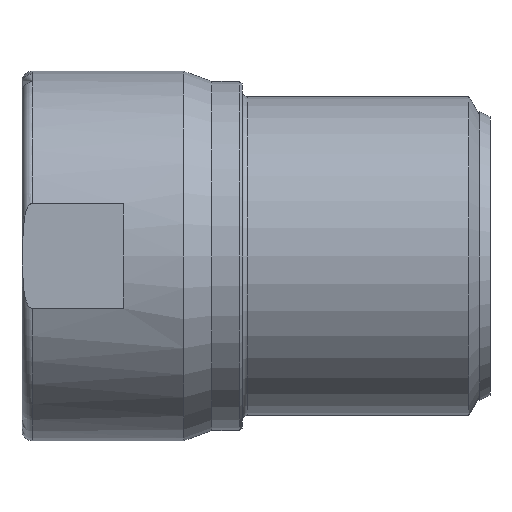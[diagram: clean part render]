
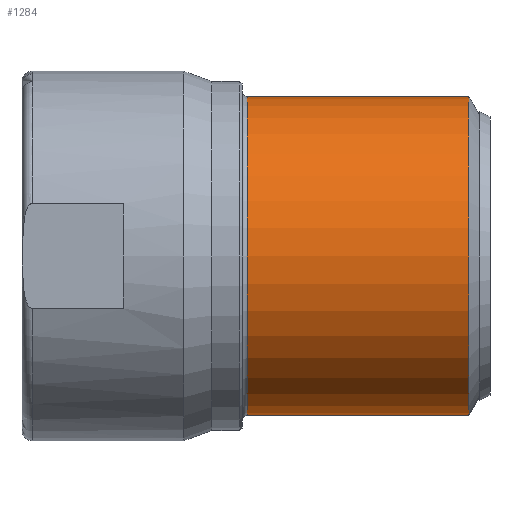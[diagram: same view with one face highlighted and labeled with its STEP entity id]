
A CAD part, front view. The second image highlights one B-rep face of the part: STEP entity #1284.
In plain terms, the highlighted cylindrical face has radius 31.5 mm (diameter 63 mm), a partial arc.
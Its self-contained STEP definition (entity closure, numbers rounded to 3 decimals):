
#3 = EDGE_CURVE ( 'NONE', #1450, #1447, #278, .T. ) ;
#18 = EDGE_CURVE ( 'NONE', #1449, #1448, #359, .T. ) ;
#19 = EDGE_CURVE ( 'NONE', #1450, #1449, #1170, .T. ) ;
#27 = EDGE_CURVE ( 'NONE', #1447, #1448, #1163, .T. ) ;
#118 = AXIS2_PLACEMENT_3D ( 'NONE', #984, #980, #987 ) ;
#218 = ORIENTED_EDGE ( 'NONE', *, *, #3, .F. ) ;
#219 = ORIENTED_EDGE ( 'NONE', *, *, #19, .T. ) ;
#220 = ORIENTED_EDGE ( 'NONE', *, *, #18, .T. ) ;
#221 = ORIENTED_EDGE ( 'NONE', *, *, #27, .F. ) ;
#278 = LINE ( 'NONE', #282, #1186 ) ;
#282 = CARTESIAN_POINT ( 'NONE',  ( 1.309, 0., 31.5 ) ) ;
#283 = DIRECTION ( 'NONE',  ( 1., 0., 0. ) ) ;
#359 = LINE ( 'NONE', #360, #1171 ) ;
#360 = CARTESIAN_POINT ( 'NONE',  ( 1.309, 0., -31.5 ) ) ;
#367 = DIRECTION ( 'NONE',  ( 1., 0., 0. ) ) ;
#368 = CARTESIAN_POINT ( 'NONE',  ( -75.5, 0., 0. ) ) ;
#369 = DIRECTION ( 'NONE',  ( 1., 0., 0. ) ) ;
#370 = DIRECTION ( 'NONE',  ( 0., 0., -1. ) ) ;
#393 = CARTESIAN_POINT ( 'NONE',  ( -31.694, 0., 0. ) ) ;
#394 = DIRECTION ( 'NONE',  ( 1., 0., 0. ) ) ;
#395 = DIRECTION ( 'NONE',  ( 0., 0., 1. ) ) ;
#672 = CARTESIAN_POINT ( 'NONE',  ( -31.694, 0., 31.5 ) ) ;
#673 = CARTESIAN_POINT ( 'NONE',  ( -31.694, 0., -31.5 ) ) ;
#674 = CARTESIAN_POINT ( 'NONE',  ( -75.5, 0., -31.5 ) ) ;
#675 = CARTESIAN_POINT ( 'NONE',  ( -75.5, 0., 31.5 ) ) ;
#980 = DIRECTION ( 'NONE',  ( 1., 0., 0. ) ) ;
#983 = FACE_OUTER_BOUND ( 'NONE', #1406, .T. ) ;
#984 = CARTESIAN_POINT ( 'NONE',  ( 1.309, 0., 0. ) ) ;
#986 = CYLINDRICAL_SURFACE ( 'NONE', #118, 31.5 ) ;
#987 = DIRECTION ( 'NONE',  ( 0., 0., -1. ) ) ;
#1163 = CIRCLE ( 'NONE', #1164, 31.5 ) ;
#1164 = AXIS2_PLACEMENT_3D ( 'NONE', #393, #394, #395 ) ;
#1166 = AXIS2_PLACEMENT_3D ( 'NONE', #368, #369, #370 ) ;
#1170 = CIRCLE ( 'NONE', #1166, 31.5 ) ;
#1171 = VECTOR ( 'NONE', #367, 1000. ) ;
#1186 = VECTOR ( 'NONE', #283, 1000. ) ;
#1284 = ADVANCED_FACE ( 'NONE', ( #983 ), #986, .T. ) ;
#1406 = EDGE_LOOP ( 'NONE', ( #218, #219, #220, #221 ) ) ;
#1447 = VERTEX_POINT ( 'NONE', #672 ) ;
#1448 = VERTEX_POINT ( 'NONE', #673 ) ;
#1449 = VERTEX_POINT ( 'NONE', #674 ) ;
#1450 = VERTEX_POINT ( 'NONE', #675 ) ;
